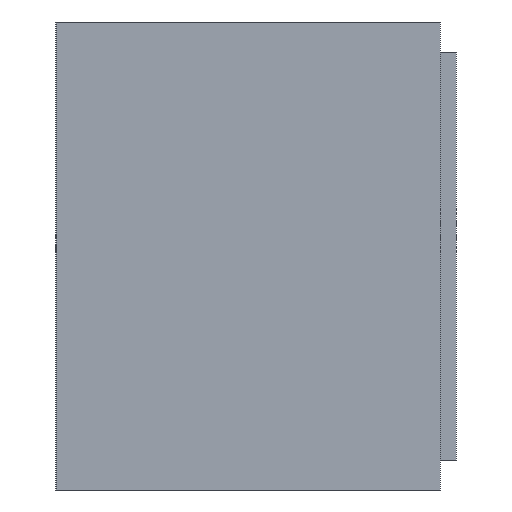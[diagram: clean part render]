
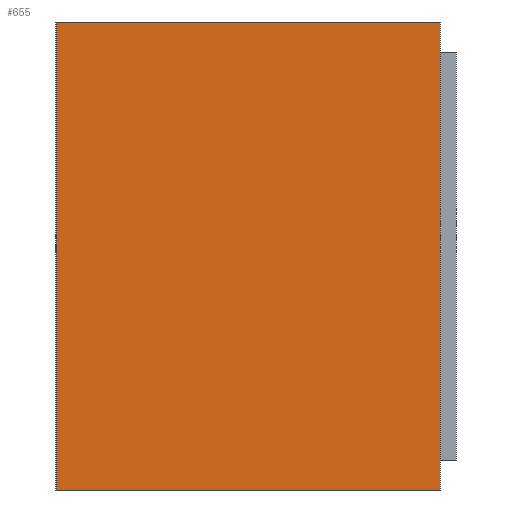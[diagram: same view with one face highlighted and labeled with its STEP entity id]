
A CAD part, left-side view. The second image highlights one B-rep face of the part: STEP entity #655.
In plain terms, the highlighted planar face has unit normal (-1, 0, 0).
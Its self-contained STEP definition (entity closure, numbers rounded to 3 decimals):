
#594 = CARTESIAN_POINT ( 'NONE',  ( -0.493, 0.02, -0.293 ) ) ;
#595 = VERTEX_POINT ( 'NONE', #594 ) ;
#602 = CARTESIAN_POINT ( 'NONE',  ( -0.493, 0.5, -0.293 ) ) ;
#603 = VERTEX_POINT ( 'NONE', #602 ) ;
#604 = CARTESIAN_POINT ( 'NONE',  ( -0.493, 0.5, -0.293 ) ) ;
#605 = DIRECTION ( 'NONE',  ( 0., -1., 0. ) ) ;
#606 = VECTOR ( 'NONE', #605, 1000. ) ;
#607 = LINE ( 'NONE', #604, #606 ) ;
#608 = EDGE_CURVE ( 'NONE', #603, #595, #607, .T. ) ;
#625 = CARTESIAN_POINT ( 'NONE',  ( -0.493, 0.02, 0.293 ) ) ;
#626 = VERTEX_POINT ( 'NONE', #625 ) ;
#627 = CARTESIAN_POINT ( 'NONE',  ( -0.493, 0.02, 0.293 ) ) ;
#628 = DIRECTION ( 'NONE',  ( 0., 0., 1. ) ) ;
#629 = VECTOR ( 'NONE', #628, 1000. ) ;
#630 = LINE ( 'NONE', #627, #629 ) ;
#631 = EDGE_CURVE ( 'NONE', #595, #626, #630, .T. ) ;
#632 = ORIENTED_EDGE ( 'NONE', *, *, #631, .T. ) ;
#633 = CARTESIAN_POINT ( 'NONE',  ( -0.493, 0.5, 0.293 ) ) ;
#634 = VERTEX_POINT ( 'NONE', #633 ) ;
#635 = CARTESIAN_POINT ( 'NONE',  ( -0.493, 0.5, 0.293 ) ) ;
#636 = DIRECTION ( 'NONE',  ( 0., -1., 0. ) ) ;
#637 = VECTOR ( 'NONE', #636, 1000. ) ;
#638 = LINE ( 'NONE', #635, #637 ) ;
#639 = EDGE_CURVE ( 'NONE', #634, #626, #638, .T. ) ;
#640 = ORIENTED_EDGE ( 'NONE', *, *, #639, .F. ) ;
#641 = CARTESIAN_POINT ( 'NONE',  ( -0.493, 0.5, 0.293 ) ) ;
#642 = DIRECTION ( 'NONE',  ( 0., 0., 1. ) ) ;
#643 = VECTOR ( 'NONE', #642, 1000. ) ;
#644 = LINE ( 'NONE', #641, #643 ) ;
#645 = EDGE_CURVE ( 'NONE', #603, #634, #644, .T. ) ;
#646 = ORIENTED_EDGE ( 'NONE', *, *, #645, .F. ) ;
#647 = ORIENTED_EDGE ( 'NONE', *, *, #608, .T. ) ;
#648 = EDGE_LOOP ( 'NONE', ( #632, #640, #646, #647 ) ) ;
#649 = FACE_OUTER_BOUND ( 'NONE', #648, .T. ) ;
#650 = CARTESIAN_POINT ( 'NONE',  ( -0.493, 0.5, 0.293 ) ) ;
#651 = DIRECTION ( 'NONE',  ( 1., 0., 0. ) ) ;
#652 = DIRECTION ( 'NONE',  ( 0., 0., -1. ) ) ;
#653 = AXIS2_PLACEMENT_3D ( 'NONE', #650, #651, #652 ) ;
#654 = PLANE ( 'NONE', #653 ) ;
#655 = ADVANCED_FACE ( 'NONE', ( #649 ), #654, .F. ) ;
